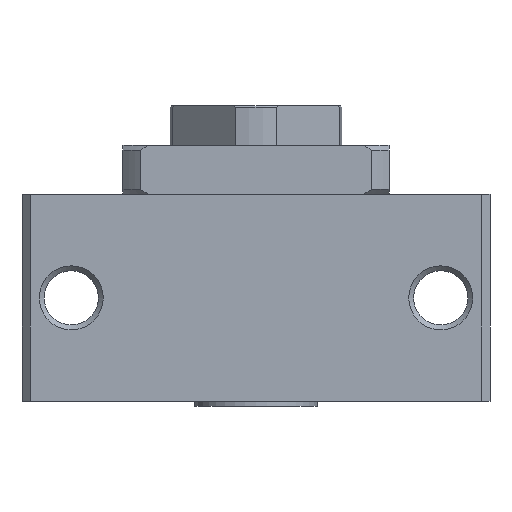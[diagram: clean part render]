
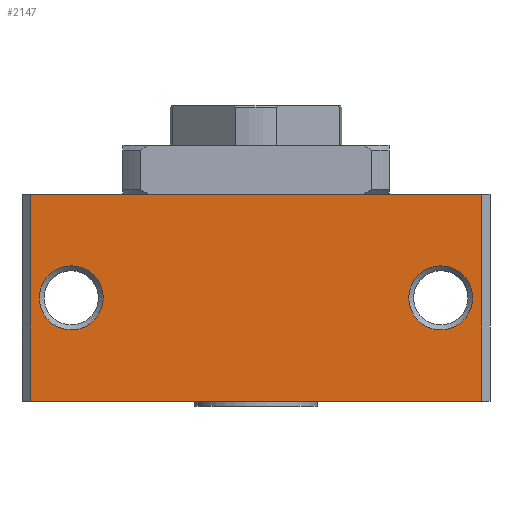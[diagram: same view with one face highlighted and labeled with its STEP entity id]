
A CAD part, front view. The second image highlights one B-rep face of the part: STEP entity #2147.
In plain terms, the highlighted planar face has unit normal (0, -1, 0).
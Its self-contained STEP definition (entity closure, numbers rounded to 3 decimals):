
#122=LINE('',#3237,#290);
#152=LINE('',#3316,#320);
#153=LINE('',#3322,#321);
#154=LINE('',#3324,#322);
#290=VECTOR('',#2593,1000.);
#320=VECTOR('',#2651,1000.);
#321=VECTOR('',#2658,1000.);
#322=VECTOR('',#2659,1000.);
#449=PLANE('',#2341);
#595=ORIENTED_EDGE('',*,*,#1177,.F.);
#596=ORIENTED_EDGE('',*,*,#1178,.F.);
#597=ORIENTED_EDGE('',*,*,#1179,.F.);
#598=ORIENTED_EDGE('',*,*,#1176,.F.);
#599=ORIENTED_EDGE('',*,*,#1139,.T.);
#600=ORIENTED_EDGE('',*,*,#1180,.T.);
#1139=EDGE_CURVE('',#1432,#1431,#122,.T.);
#1176=EDGE_CURVE('',#1432,#1466,#152,.T.);
#1177=EDGE_CURVE('',#1467,#1467,#1633,.T.);
#1178=EDGE_CURVE('',#1468,#1468,#1634,.T.);
#1179=EDGE_CURVE('',#1466,#1469,#153,.T.);
#1180=EDGE_CURVE('',#1431,#1469,#154,.T.);
#1431=VERTEX_POINT('',#3236);
#1432=VERTEX_POINT('',#3238);
#1466=VERTEX_POINT('',#3315);
#1467=VERTEX_POINT('',#3319);
#1468=VERTEX_POINT('',#3321);
#1469=VERTEX_POINT('',#3323);
#1633=CIRCLE('',#2342,6.5);
#1634=CIRCLE('',#2343,6.5);
#1725=EDGE_LOOP('',(#595));
#1726=EDGE_LOOP('',(#596));
#1727=EDGE_LOOP('',(#597,#598,#599,#600));
#1927=FACE_BOUND('',#1725,.T.);
#1928=FACE_BOUND('',#1726,.T.);
#1929=FACE_BOUND('',#1727,.T.);
#2147=ADVANCED_FACE('',(#1927,#1928,#1929),#449,.T.);
#2341=AXIS2_PLACEMENT_3D('',#3317,#2652,#2653);
#2342=AXIS2_PLACEMENT_3D('',#3318,#2654,#2655);
#2343=AXIS2_PLACEMENT_3D('',#3320,#2656,#2657);
#2593=DIRECTION('',(1.,0.,0.));
#2651=DIRECTION('',(0.,0.,1.));
#2652=DIRECTION('',(0.,-1.,0.));
#2653=DIRECTION('',(0.,0.,-1.));
#2654=DIRECTION('',(0.,-1.,0.));
#2655=DIRECTION('',(0.,0.,-1.));
#2656=DIRECTION('',(0.,-1.,0.));
#2657=DIRECTION('',(0.,0.,-1.));
#2658=DIRECTION('',(1.,0.,0.));
#2659=DIRECTION('',(0.,0.,1.));
#3236=CARTESIAN_POINT('',(45.82,-30.,-42.));
#3237=CARTESIAN_POINT('',(-45.82,-30.,-42.));
#3238=CARTESIAN_POINT('',(-45.82,-30.,-42.));
#3315=CARTESIAN_POINT('',(-45.82,-30.,0.));
#3316=CARTESIAN_POINT('',(-45.82,-30.,-42.));
#3317=CARTESIAN_POINT('',(-45.82,-30.,-42.));
#3318=CARTESIAN_POINT('',(37.5,-30.,-21.));
#3319=CARTESIAN_POINT('',(37.5,-30.,-27.5));
#3320=CARTESIAN_POINT('',(-37.5,-30.,-21.));
#3321=CARTESIAN_POINT('',(-37.5,-30.,-27.5));
#3322=CARTESIAN_POINT('',(-45.82,-30.,0.));
#3323=CARTESIAN_POINT('',(45.82,-30.,0.));
#3324=CARTESIAN_POINT('',(45.82,-30.,-42.));
